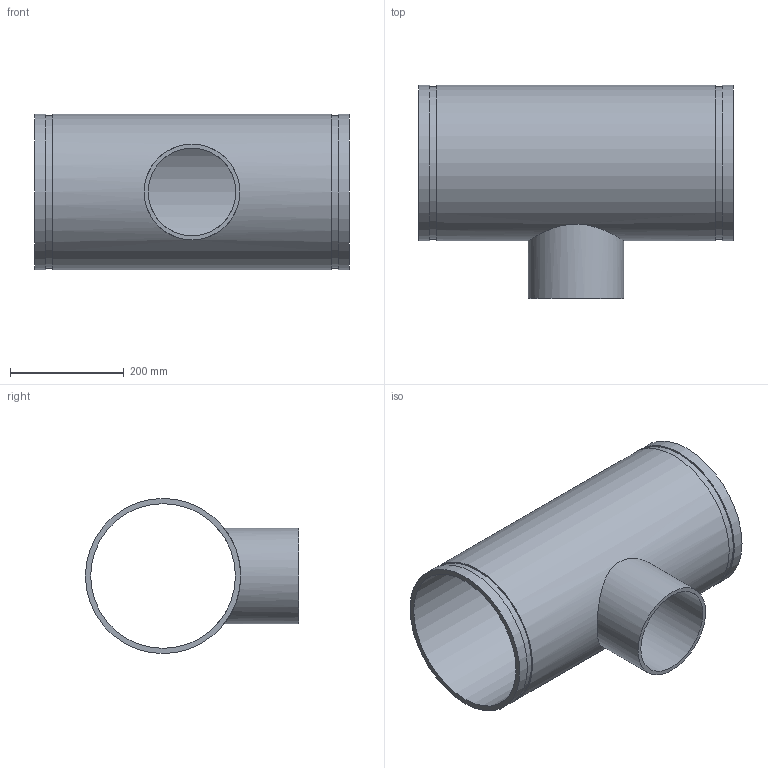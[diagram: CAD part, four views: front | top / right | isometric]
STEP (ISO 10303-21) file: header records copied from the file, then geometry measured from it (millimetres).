
FILE_DESCRIPTION(/* description */ ('VIC REDUCING TEE No 29T FFT (OGSxMPT)','CAx-IF Rec.Pracs.---Representation and Presentation of Product Manufacturing Information (PMI)---4.0---2014-10-13'),/* implementation_level */ '2;1');
FILE_NAME(/* name */ 'C:\Users\kkamble\AppData\Roaming\Autodesk\ApplicationPlugins\Back Up\Victaulic_IPS_Tee Reducing_No 29T FFT (OGSxMPT)\Victaulic_IPS_Tee Reducing_No 29T FFT (OGSxMPT)_10.0x06.0 (250x150).stp',/* time_stamp */ '2020-09-16T22:39:09+05:00',/* author */ ('CORINNE GRAY'),/* organization */ ('Victaulic'),/* preprocessor_version */ 'ST-DEVELOPER v17.2',/* originating_system */ 'Autodesk Inventor 2019',/* authorisation */ '');
FILE_SCHEMA (('AP242_MANAGED_MODEL_BASED_3D_ENGINEERING_MIM_LF { 1 0 10303 442 1 1 4 }'));
Length unit declared in the file: inch
Products named in the file (1): 29 FFT-10.0x06.0
Bounding box: 552.7 x 374.78 x 273.05 mm (x, y, z)
Volume: 4426086.6 mm3; surface area: 1020661.8 mm2
Topology: 1 solids, 1 shells, 15 faces, 32 edges, 24 vertices
Faces by surface type: cylinder 8, plane 7
Full cylindrical faces by diameter (mm): 154.051 x1, 168.275 x1, 254.508 x1, 268.275 x2, 273.05 x3
Entity records: 709 total; most frequent: CARTESIAN_POINT 221, DIRECTION 106, ORIENTED_EDGE 64, AXIS2_PLACEMENT_3D 49, EDGE_CURVE 32, EDGE_LOOP 24, VERTEX_POINT 24, CIRCLE 20
